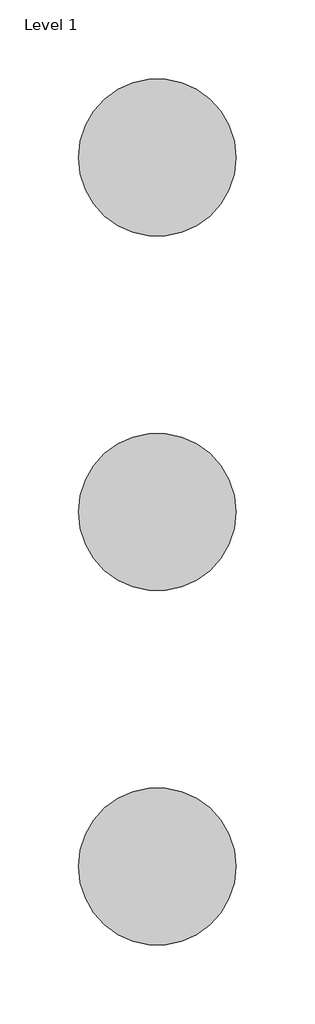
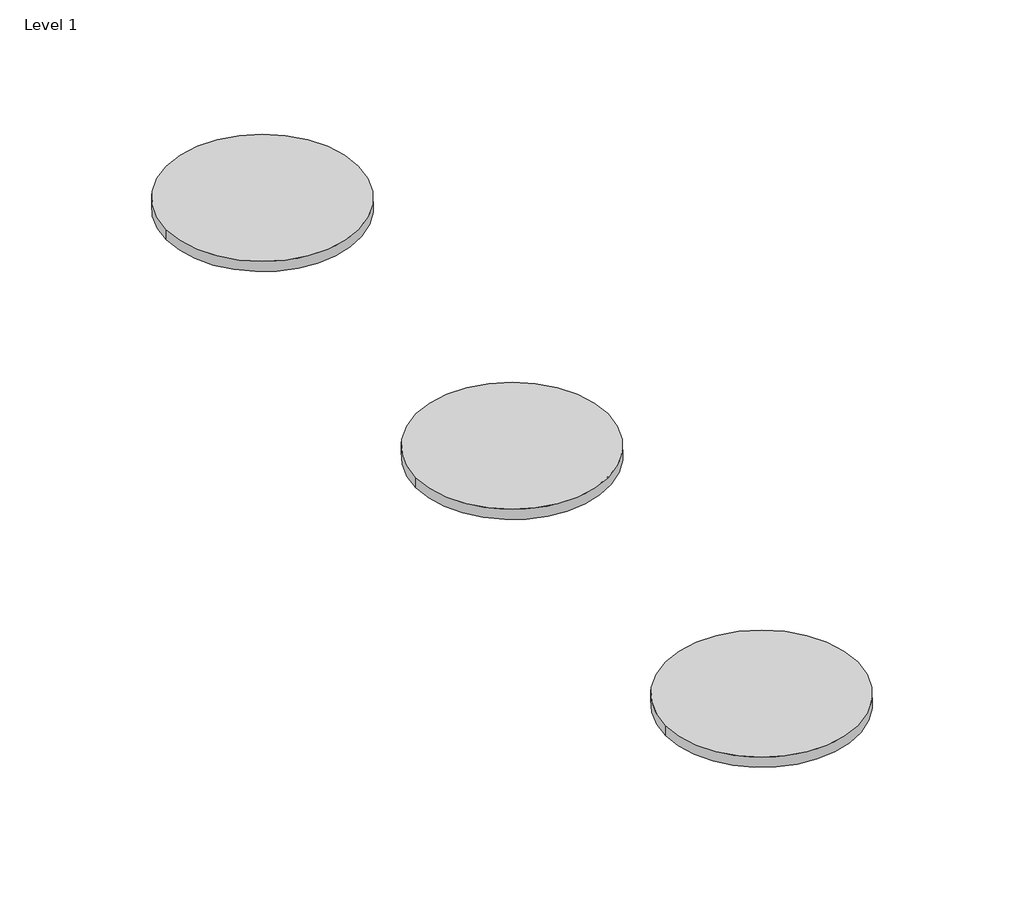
# One storey, incomplete: 3 proxies.
"""IFC4 building model written with IfcOpenShell, lengths in millimetres."""

import ifcopenshell
import ifcopenshell.guid

model = None  # the IFC model being written
_history = None  # IfcOwnerHistory: only IFC2X3 demands one
_inside = {}  # id of a spatial element -> (the spatial element, [elements in it])
_under = {}  # id of a project, library or spatial element -> (it, [spatial elements below it])
_declared = {}  # id of a project -> (the project, [libraries it declares])
_typed = {}  # id of a type object -> (the type object, [elements of that type])
_made_of = {}  # id of a material, layer set ... -> (it, [elements and type objects made of it])


def new_model(schema):
    """Start an empty IFC model of exactly this schema.

    Asked for "IFC4X3", IfcOpenShell would pick the latest addendum, in which some entities
    have other attributes; the version numbers below select the first issue.
    IFC2X3 requires an IfcOwnerHistory on every rooted entity: one is made here for all.
    """
    global model, _history
    if schema == "IFC4X3":
        model = ifcopenshell.file(schema_version=(4, 3, 0, 0))
    else:
        model = ifcopenshell.file(schema=schema)
    _inside.clear()
    _under.clear()
    _declared.clear()
    _typed.clear()
    _made_of.clear()
    _history = None
    if model.schema == "IFC2X3":
        org = make("IfcOrganization", Name="unknown")
        user = make(
            "IfcPersonAndOrganization",
            ThePerson=make("IfcPerson", FamilyName="unknown"),
            TheOrganization=org,
        )
        app = make(
            "IfcApplication",
            ApplicationDeveloper=org,
            Version="unknown",
            ApplicationFullName="unknown",
            ApplicationIdentifier="unknown",
        )
        _history = make(
            "IfcOwnerHistory",
            OwningUser=user,
            OwningApplication=app,
            ChangeAction="ADDED",
            CreationDate=0,
        )
    return model


def make(cls, **values):
    """One entity of the class cls with the attributes given. An attribute that is None is left unset."""
    return model.create_entity(
        cls, **{name: value for name, value in values.items() if value is not None}
    )


def rooted(cls, **values):
    """An entity with a GlobalId (a new one), such as an element, a storey or a relation."""
    return make(cls, GlobalId=ifcopenshell.guid.new(), OwnerHistory=_history, **values)


def si_unit(unit_type, name, prefix=None):
    """IfcSIUnit, for example si_unit("LENGTHUNIT", "METRE", prefix="MILLI")."""
    return make("IfcSIUnit", UnitType=unit_type, Prefix=prefix, Name=name)


def assignment(units):
    """IfcUnitAssignment: the units of a project."""
    return None if units is None else make("IfcUnitAssignment", Units=units)


def point(xyz):
    """IfcCartesianPoint."""
    return None if xyz is None else make("IfcCartesianPoint", Coordinates=xyz)


def direction(xyz):
    """IfcDirection."""
    return None if xyz is None else make("IfcDirection", DirectionRatios=xyz)


def frame(location, z_axis=None, x_axis=None):
    """IfcAxis2Placement3D, a coordinate frame: its origin and axes. An axis left out is left unset."""
    return make(
        "IfcAxis2Placement3D",
        Location=point(location),
        Axis=direction(z_axis),
        RefDirection=direction(x_axis),
    )


def frame_2d(location, x_axis=None):
    """IfcAxis2Placement2D, a coordinate frame in the plane: its origin and x axis."""
    return make(
        "IfcAxis2Placement2D", Location=point(location), RefDirection=direction(x_axis)
    )


def origin():
    """The frame at (0, 0, 0) with its axes left unset."""
    return frame((0.0, 0.0, 0.0))


def origin_with_axes():
    """The frame at (0, 0, 0) with the z axis (0, 0, 1) and the x axis (1, 0, 0) written out."""
    return frame((0.0, 0.0, 0.0), z_axis=(0.0, 0.0, 1.0), x_axis=(1.0, 0.0, 0.0))


def origin_2d():
    """The frame at (0, 0) in the plane with its x axis left unset."""
    return frame_2d((0.0, 0.0))


def place(relative_to, where):
    """IfcLocalPlacement: puts the frame where relative to a parent placement (None: the world)."""
    return make(
        "IfcLocalPlacement", PlacementRelTo=relative_to, RelativePlacement=where
    )


def context(
    kind, dimensions, precision=None, world=None, true_north=None, identifier=None
):
    """IfcGeometricRepresentationContext, for example the 3D "Model" context."""
    return make(
        "IfcGeometricRepresentationContext",
        ContextIdentifier=identifier,
        ContextType=kind,
        CoordinateSpaceDimension=dimensions,
        Precision=precision,
        WorldCoordinateSystem=world,
        TrueNorth=true_north,
    )


def project(units=None, contexts=None):
    """IfcProject with its units and contexts."""
    return rooted(
        "IfcProject",
        Name="project",
        RepresentationContexts=contexts,
        UnitsInContext=assignment(units),
    )


def spatial(cls, under=None, at=None, **own):
    """A site, building, storey or space (cls), placed at a placement, below another one or the project."""
    s = rooted(cls, ObjectPlacement=at, **own)
    if under is not None:
        _under.setdefault(under.id(), (under, []))[1].append(s)
    return s


def circle_curve(where, radius):
    """IfcCircle in the frame where."""
    return make("IfcCircle", Position=where, Radius=radius)


def trimmed(basis, trim1, trim2, sense, master):
    """IfcTrimmedCurve: the piece of a basis curve between two trims."""
    return make(
        "IfcTrimmedCurve",
        BasisCurve=basis,
        Trim1=trim1,
        Trim2=trim2,
        SenseAgreement=sense,
        MasterRepresentation=master,
    )


def segment(curve, same_sense, transition):
    """IfcCompositeCurveSegment."""
    return make(
        "IfcCompositeCurveSegment",
        Transition=transition,
        SameSense=same_sense,
        ParentCurve=curve,
    )


def composite_curve(segments, self_intersect=None):
    """IfcCompositeCurve: segments joined end to end."""
    return make("IfcCompositeCurve", Segments=segments, SelfIntersect=self_intersect)


def outline(outer, holes=None, kind="AREA"):
    """IfcArbitraryClosedProfileDef: a profile drawn as a closed curve; with holes, ...WithVoids."""
    if holes is None:
        return make("IfcArbitraryClosedProfileDef", ProfileType=kind, OuterCurve=outer)
    return make(
        "IfcArbitraryProfileDefWithVoids",
        ProfileType=kind,
        OuterCurve=outer,
        InnerCurves=holes,
    )


def extrude(swept, where, along, depth):
    """IfcExtrudedAreaSolid: the profile swept, set in the frame where, extruded along a direction by depth."""
    return make(
        "IfcExtrudedAreaSolid",
        SweptArea=swept,
        Position=where,
        ExtrudedDirection=direction(along),
        Depth=depth,
    )


def shape(context_of_items, identifier, shape_type, items):
    """IfcShapeRepresentation: the items that make up one representation, for example the "Body"."""
    return make(
        "IfcShapeRepresentation",
        ContextOfItems=context_of_items,
        RepresentationIdentifier=identifier,
        RepresentationType=shape_type,
        Items=items,
    )


def source(mapping_origin, context_of_items, identifier, shape_type, items):
    """IfcRepresentationMap: a shape defined once, which mapped items show again and again."""
    return make(
        "IfcRepresentationMap",
        MappingOrigin=mapping_origin,
        MappedRepresentation=shape(context_of_items, identifier, shape_type, items),
    )


def transform(
    local_origin,
    x_axis=None,
    y_axis=None,
    z_axis=None,
    scale=None,
    scale2=None,
    scale3=None,
    uniform=True,
):
    """IfcCartesianTransformationOperator3D, or its non-uniform kind. x_axis, y_axis, z_axis: its Axis1, 2, 3."""
    if uniform:
        return make(
            "IfcCartesianTransformationOperator3D",
            Axis1=direction(x_axis),
            Axis2=direction(y_axis),
            LocalOrigin=point(local_origin),
            Scale=scale,
            Axis3=direction(z_axis),
        )
    return make(
        "IfcCartesianTransformationOperator3DnonUniform",
        Axis1=direction(x_axis),
        Axis2=direction(y_axis),
        LocalOrigin=point(local_origin),
        Scale=scale,
        Axis3=direction(z_axis),
        Scale2=scale2,
        Scale3=scale3,
    )


def mapped(mapping_source, mapping_target):
    """IfcMappedItem: shows the shape of a source again, moved by a transform."""
    return make(
        "IfcMappedItem", MappingSource=mapping_source, MappingTarget=mapping_target
    )


def made_of(thing, what):
    """Note that an element or type object is made of a material, layer set ...; save() writes the relation."""
    if what is not None:
        _made_of.setdefault(what.id(), (what, []))[1].append(thing)
    return thing


def element(
    cls,
    number,
    at=None,
    inside=None,
    cuts=None,
    type_object=None,
    material=None,
    context=None,
    identifier="Body",
    shape_type=None,
    held_by="IfcProductDefinitionShape",
    body=None,
    shapes=None,
    **own,
):
    """One element of the class cls, such as IfcWall. Its Tag is "e" and its number.

    at: its placement. inside: the storey or other place that contains it. cuts: it is an
    opening in that element (IfcRelVoidsElement). A single representation is given by context,
    identifier, shape_type and body (its items); several are given by shapes. held_by: the class
    of the entity that holds the representations. save() writes the other relations.
    """
    e = rooted(cls, Tag="e%d" % number, ObjectPlacement=at, **own)
    if body is not None:
        shapes = [shape(context, identifier, shape_type, body)]
    if shapes is not None:
        e.Representation = make(held_by, Representations=shapes)
    if inside is not None:
        _inside.setdefault(inside.id(), (inside, []))[1].append(e)
    if cuts is not None:
        rooted(
            "IfcRelVoidsElement", RelatingBuildingElement=cuts, RelatedOpeningElement=e
        )
    if type_object is not None:
        _typed.setdefault(type_object.id(), (type_object, []))[1].append(e)
    return made_of(e, material)


def aggregate(whole, parts):
    """IfcRelAggregates: a whole, such as a stair, and the parts it consists of."""
    return rooted("IfcRelAggregates", RelatingObject=whole, RelatedObjects=parts)


def save(model, path):
    """Write the relations noted so far, then the file.

    IfcRelAggregates (storeys below a building ...), IfcRelContainedInSpatialStructure (elements
    in a storey), IfcRelDefinesByType, IfcRelAssociatesMaterial and IfcRelDeclares: one each for
    every whole, place, type object, material and project.
    """
    for whole, parts in _under.values():
        aggregate(whole, parts)
    for where, things in _inside.values():
        rooted(
            "IfcRelContainedInSpatialStructure",
            RelatedElements=things,
            RelatingStructure=where,
        )
    for kind, things in _typed.values():
        rooted("IfcRelDefinesByType", RelatedObjects=things, RelatingType=kind)
    for what, things in _made_of.values():
        rooted("IfcRelAssociatesMaterial", RelatedObjects=things, RelatingMaterial=what)
    for by, libraries in _declared.values():
        rooted("IfcRelDeclares", RelatingContext=by, RelatedDefinitions=libraries)
    model.write(path)


def materialmodel_materialmodel_59d2b528(model_context):
    return source(origin(), model_context, "Body", "SweptSolid", [
        extrude(outline(composite_curve([segment(trimmed(circle_curve(origin_2d(), 50.0), [point((-50.0, 0.0))], [point((50.0, 0.0))], False, "CARTESIAN"), True, "CONTINUOUS"), segment(trimmed(circle_curve(origin_2d(), 50.0), [point((50.0, 0.0))], [point((-50.0, 0.0))], False, "CARTESIAN"), True, "CONTINUOUS")], self_intersect=False)), origin_with_axes(), (0.0, 0.0, 1.0), 5.5979905),
    ])


model = new_model("IFC4")

# Units and contexts
model_context = context("Model", 3, world=origin())
ifc_project = project(units=[si_unit("LENGTHUNIT", "METRE", prefix="MILLI")], contexts=[model_context])

# Site, building, storey
site = spatial("IfcSite", under=ifc_project)
building = spatial("IfcBuilding", under=site)
storey = spatial("IfcBuildingStorey", under=building, Name="Level 1", Elevation=0.0)

# Proxies
placement = place(None, origin())
materialmodel_materialmodel_shape = materialmodel_materialmodel_59d2b528(model_context)
element("IfcBuildingElementProxy", 1, Name="MaterialModel : MaterialModel", ObjectType="MaterialModel : MaterialModel", at=placement, inside=storey, context=model_context, shape_type="MappedRepresentation", body=[
    mapped(materialmodel_materialmodel_shape, transform((-5592.1657896, -1443.7880109, 0.0), x_axis=(1.0, 0.0, 0.0), y_axis=(0.0, 1.0, 0.0), z_axis=(0.0, 0.0, 1.0))),
])
element("IfcBuildingElementProxy", 2, Name="MaterialModel : MaterialModel", ObjectType="MaterialModel : MaterialModel", at=placement, inside=storey, context=model_context, shape_type="MappedRepresentation", body=[
    mapped(materialmodel_materialmodel_shape, transform((-5592.1657896, -1668.7880109, 0.0), x_axis=(1.0, 0.0, 0.0), y_axis=(0.0, 1.0, 0.0), z_axis=(0.0, 0.0, 1.0))),
])
element("IfcBuildingElementProxy", 3, Name="MaterialModel : MaterialModel", ObjectType="MaterialModel : MaterialModel", at=placement, inside=storey, context=model_context, shape_type="MappedRepresentation", body=[
    mapped(materialmodel_materialmodel_shape, transform((-5592.1657896, -1893.7880109, 0.0), x_axis=(1.0, 0.0, 0.0), y_axis=(0.0, 1.0, 0.0), z_axis=(0.0, 0.0, 1.0))),
])

save(model, "model.ifc")
